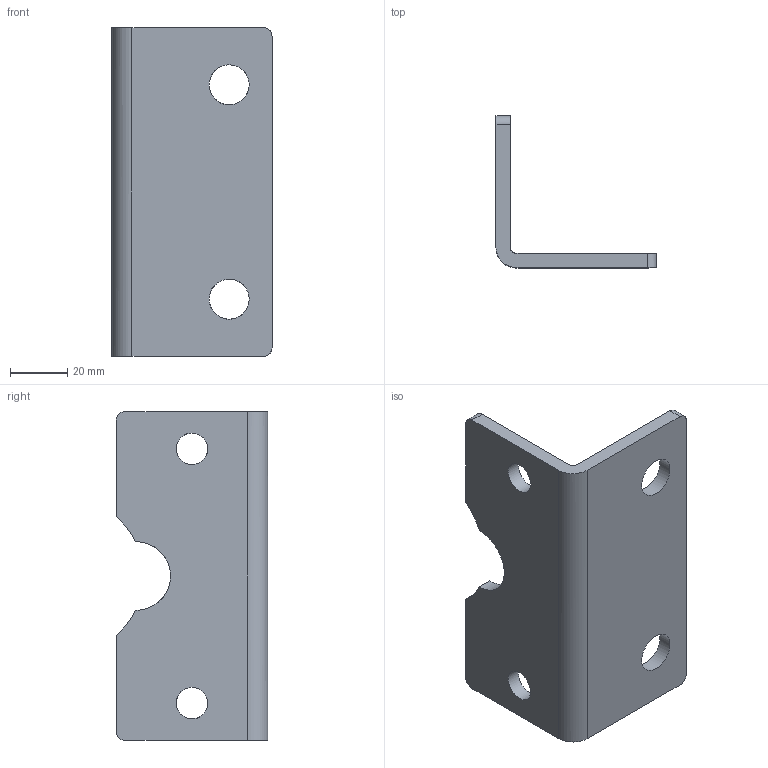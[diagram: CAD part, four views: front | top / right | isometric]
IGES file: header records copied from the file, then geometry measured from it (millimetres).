
Global section: file name: 1325_100_05-1F; native system: Autodesk Inventor 2014; preprocessor: unknown; organization: Pneumax S.p.A.; date: 20161014.140328; units: millimetre
Bounding box: 56 x 53 x 115 mm (x, y, z)
Volume: 53852.2 mm3; surface area: 24566.4 mm2
Topology: 1 solids, 1 shells, 22 faces, 64 edges, 44 vertices
Faces by surface type: bspline 22
